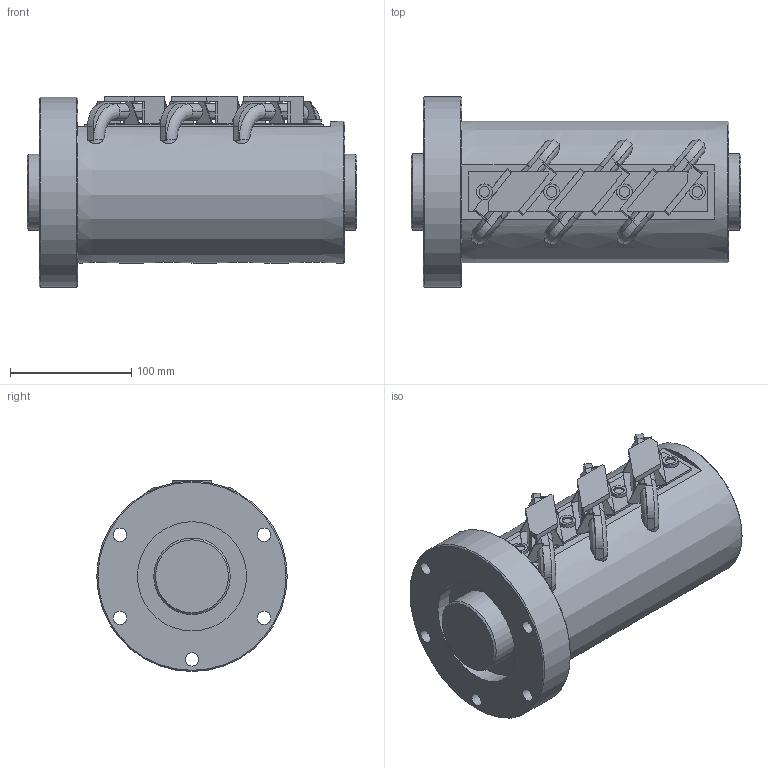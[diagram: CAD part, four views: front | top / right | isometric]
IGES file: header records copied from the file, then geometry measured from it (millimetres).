
Start section: Data from Parasolid IGES Translator 26.0.171, Copyright(c) 2006 Siemens PLM Software. All Rights Reserved.
Global section: file name: HBN6320-7.5RRG2+272LC0(0G200)_rev.igs; native system: By Siemens PLM Incorporated; preprocessor: XPlus GENERIC/IGES 26.0.171; author: Noname; organization: Noname; date: 20240704.081814; units: millimetre
Bounding box: 272 x 157 x 157.5 mm (x, y, z)
Surface area: 281126.6 mm2 (no closed solid volume)
Topology: 0 solids, 0 shells, 256 faces, 1557 edges, 1506 vertices
Faces by surface type: extrusion 189, revolution 67
